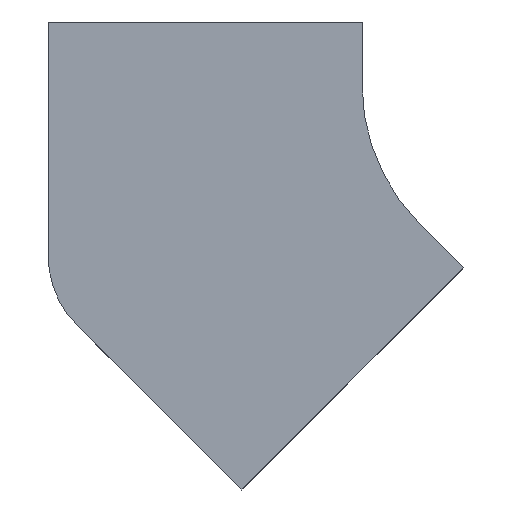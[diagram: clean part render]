
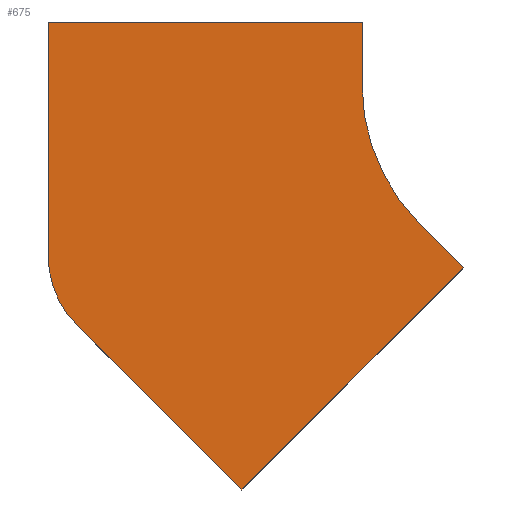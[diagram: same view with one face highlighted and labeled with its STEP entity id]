
A CAD part, front view. The second image highlights one B-rep face of the part: STEP entity #675.
In plain terms, the highlighted planar face has unit normal (0, -1, 0).
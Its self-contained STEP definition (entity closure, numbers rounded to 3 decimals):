
#3 = CARTESIAN_POINT ( 'NONE',  ( -88.388, 0., -88.388 ) ) ;
#8 = AXIS2_PLACEMENT_3D ( 'NONE', #352, #1275, #359 ) ;
#84 = EDGE_CURVE ( 'NONE', #422, #977, #384, .T. ) ;
#87 = VERTEX_POINT ( 'NONE', #3 ) ;
#107 = ORIENTED_EDGE ( 'NONE', *, *, #113, .F. ) ;
#109 = EDGE_LOOP ( 'NONE', ( #826, #1025, #821, #367, #467, #258, #769, #107 ) ) ;
#113 = EDGE_CURVE ( 'NONE', #977, #1138, #1045, .T. ) ;
#117 = CARTESIAN_POINT ( 'NONE',  ( -60.104, 0., -116.673 ) ) ;
#134 = DIRECTION ( 'NONE',  ( 0., 0., -1. ) ) ;
#163 = CARTESIAN_POINT ( 'NONE',  ( -201.525, 0., -258.094 ) ) ;
#168 = DIRECTION ( 'NONE',  ( 0., 0., 1. ) ) ;
#239 = VECTOR ( 'NONE', #1550, 1000. ) ;
#258 = ORIENTED_EDGE ( 'NONE', *, *, #1580, .F. ) ;
#270 = DIRECTION ( 'NONE',  ( 1., 0., 0. ) ) ;
#337 = AXIS2_PLACEMENT_3D ( 'NONE', #1054, #1556, #1193 ) ;
#345 = VERTEX_POINT ( 'NONE', #117 ) ;
#352 = CARTESIAN_POINT ( 'NONE',  ( 0., 0., 0. ) ) ;
#359 = DIRECTION ( 'NONE',  ( 0., 0., -1. ) ) ;
#364 = CARTESIAN_POINT ( 'NONE',  ( -125., 0., 40. ) ) ;
#367 = ORIENTED_EDGE ( 'NONE', *, *, #1512, .F. ) ;
#384 = LINE ( 'NONE', #1428, #930 ) ;
#385 = EDGE_CURVE ( 'NONE', #1138, #87, #1361, .T. ) ;
#394 = EDGE_CURVE ( 'NONE', #431, #477, #550, .T. ) ;
#422 = VERTEX_POINT ( 'NONE', #1433 ) ;
#431 = VERTEX_POINT ( 'NONE', #642 ) ;
#467 = ORIENTED_EDGE ( 'NONE', *, *, #1060, .F. ) ;
#477 = VERTEX_POINT ( 'NONE', #796 ) ;
#489 = CARTESIAN_POINT ( 'NONE',  ( -125., 0., 40. ) ) ;
#540 = VERTEX_POINT ( 'NONE', #1073 ) ;
#550 = CIRCLE ( 'NONE', #1120, 62.5 ) ;
#606 = DIRECTION ( 'NONE',  ( 0., 0., 1. ) ) ;
#631 = VECTOR ( 'NONE', #789, 1000. ) ;
#634 = VECTOR ( 'NONE', #1295, 1000. ) ;
#642 = CARTESIAN_POINT ( 'NONE',  ( -306.694, 0., -152.925 ) ) ;
#649 = DIRECTION ( 'NONE',  ( 0., 1., 0. ) ) ;
#668 = CARTESIAN_POINT ( 'NONE',  ( -262.5, 0., -108.731 ) ) ;
#675 = ADVANCED_FACE ( 'NONE', ( #1642 ), #1145, .T. ) ;
#743 = VECTOR ( 'NONE', #134, 1000. ) ;
#769 = ORIENTED_EDGE ( 'NONE', *, *, #385, .F. ) ;
#789 = DIRECTION ( 'NONE',  ( -0.707, 0., -0.707 ) ) ;
#796 = CARTESIAN_POINT ( 'NONE',  ( -325., 0., -108.731 ) ) ;
#821 = ORIENTED_EDGE ( 'NONE', *, *, #394, .F. ) ;
#826 = ORIENTED_EDGE ( 'NONE', *, *, #84, .F. ) ;
#930 = VECTOR ( 'NONE', #270, 1000. ) ;
#963 = VECTOR ( 'NONE', #606, 1000. ) ;
#972 = CARTESIAN_POINT ( 'NONE',  ( -125., 0., 0. ) ) ;
#977 = VERTEX_POINT ( 'NONE', #489 ) ;
#1025 = ORIENTED_EDGE ( 'NONE', *, *, #1423, .F. ) ;
#1045 = LINE ( 'NONE', #364, #743 ) ;
#1054 = CARTESIAN_POINT ( 'NONE',  ( 0., 0., 0. ) ) ;
#1060 = EDGE_CURVE ( 'NONE', #345, #540, #1186, .T. ) ;
#1073 = CARTESIAN_POINT ( 'NONE',  ( -201.525, 0., -258.094 ) ) ;
#1120 = AXIS2_PLACEMENT_3D ( 'NONE', #668, #649, #168 ) ;
#1138 = VERTEX_POINT ( 'NONE', #972 ) ;
#1145 = PLANE ( 'NONE',  #8 ) ;
#1158 = CARTESIAN_POINT ( 'NONE',  ( -60.104, 0., -116.673 ) ) ;
#1186 = LINE ( 'NONE', #1158, #631 ) ;
#1193 = DIRECTION ( 'NONE',  ( 0., 0., -1. ) ) ;
#1196 = LINE ( 'NONE', #1206, #634 ) ;
#1206 = CARTESIAN_POINT ( 'NONE',  ( -88.388, 0., -88.388 ) ) ;
#1275 = DIRECTION ( 'NONE',  ( 0., -1., 0. ) ) ;
#1295 = DIRECTION ( 'NONE',  ( 0.707, 0., -0.707 ) ) ;
#1314 = LINE ( 'NONE', #163, #239 ) ;
#1361 = CIRCLE ( 'NONE', #337, 125. ) ;
#1378 = CARTESIAN_POINT ( 'NONE',  ( -325., 0., -108.731 ) ) ;
#1423 = EDGE_CURVE ( 'NONE', #477, #422, #1659, .T. ) ;
#1428 = CARTESIAN_POINT ( 'NONE',  ( -325., 0., 40. ) ) ;
#1433 = CARTESIAN_POINT ( 'NONE',  ( -325., 0., 40. ) ) ;
#1512 = EDGE_CURVE ( 'NONE', #540, #431, #1314, .T. ) ;
#1550 = DIRECTION ( 'NONE',  ( -0.707, 0., 0.707 ) ) ;
#1556 = DIRECTION ( 'NONE',  ( 0., -1., 0. ) ) ;
#1580 = EDGE_CURVE ( 'NONE', #87, #345, #1196, .T. ) ;
#1642 = FACE_OUTER_BOUND ( 'NONE', #109, .T. ) ;
#1659 = LINE ( 'NONE', #1378, #963 ) ;
